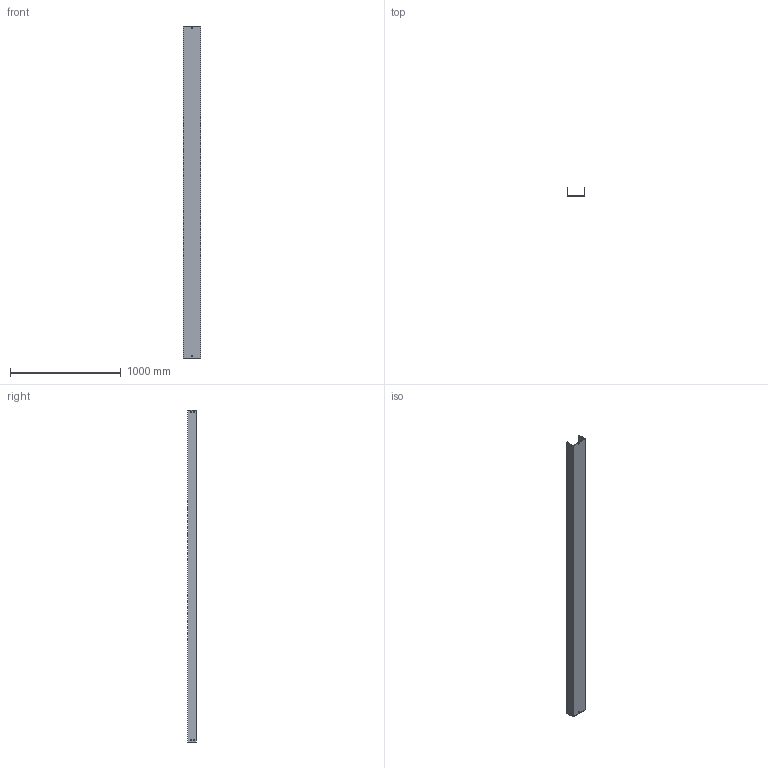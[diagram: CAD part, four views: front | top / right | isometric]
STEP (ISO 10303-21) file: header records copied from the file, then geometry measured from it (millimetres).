
FILE_DESCRIPTION (( 'STEP AP214' ), '1' );
FILE_NAME ('03B3C150.step', '2025-02-21T10:22:34', ( '' ), ( '' ), 'SwSTEP 2.0', 'SolidWorks 2023', '' );
FILE_SCHEMA (( 'AUTOMOTIVE_DESIGN' ));
Length unit declared in the file: millimetre
Products named in the file (1): 03B3C150
Bounding box: 154 x 79 x 3000 mm (x, y, z)
Volume: 3200130.5 mm3; surface area: 1852950 mm2
Topology: 1 solids, 1 shells, 50 faces, 144 edges, 96 vertices
Faces by surface type: plane 50
Entity records: 1671 total; most frequent: CARTESIAN_POINT 291, ORIENTED_EDGE 288, DIRECTION 246, EDGE_CURVE 144, LINE 144, VECTOR 144, VERTEX_POINT 96, EDGE_LOOP 70
